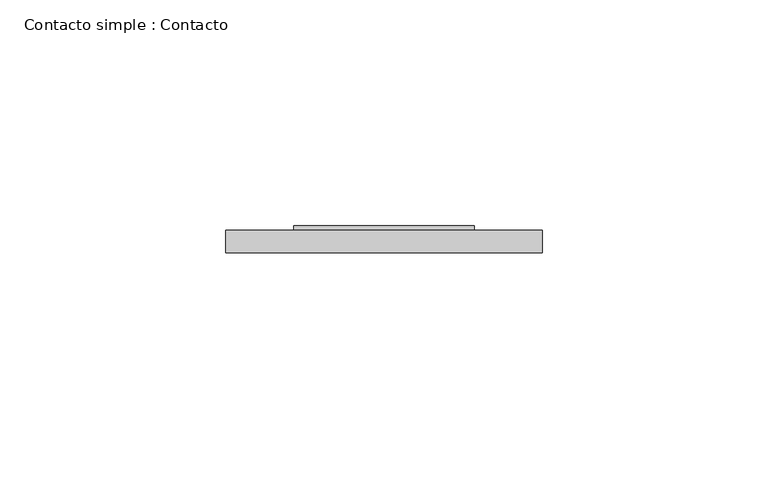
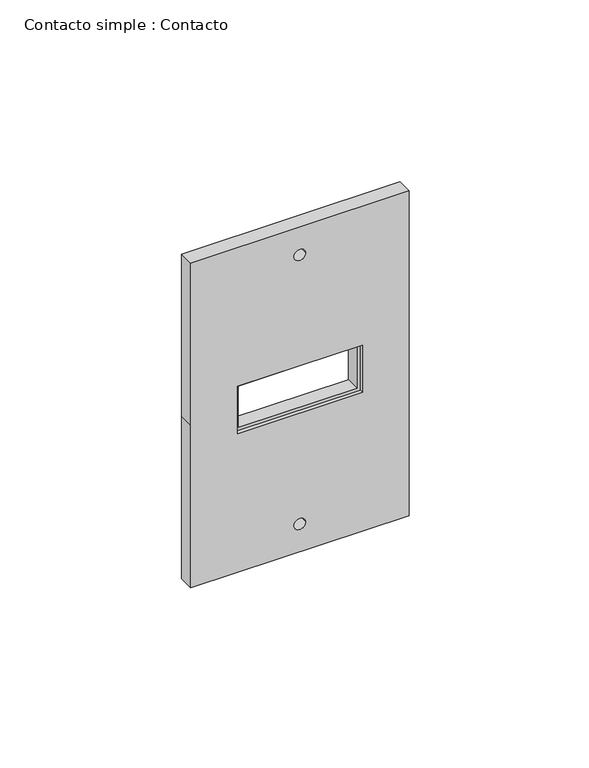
"""IFC4 building model written with IfcOpenShell, lengths in millimetres: proxy geometry, Contacto simple : Contacto."""

from ifc_helpers import new_model, si_unit, point, frame, frame_2d, origin, place, context, project, spatial, polyline, circle_curve, trimmed, segment, composite_curve, outline, extrude, source, transform, mapped, element, save


def contacto_simple_contacto_dd831d3e(model_context):
    return source(origin(), model_context, "Body", "SweptSolid", [
        extrude(outline(polyline([(342.0, 145.0), (358.0, 145.0), (358.0, 105.0), (342.0, 105.0), (342.0, 145.0)]), holes=[polyline([(357.0, 106.0), (357.0, 144.0), (343.0, 144.0), (343.0, 106.0), (357.0, 106.0)])]), frame((0.0, 76.2025607, 0.0), z_axis=(0.0, 1.0, 0.0), x_axis=(0.0, 0.0, 1.0)), (0.0, 0.0, 1.0), 4.7658788),
        extrude(outline(polyline([(405.0, 160.0), (405.0, 90.0), (350.0, 90.0), (295.0, 90.0), (295.0, 160.0), (405.0, 160.0)]), holes=[composite_curve([segment(trimmed(circle_curve(frame_2d((395.5814465, 125.0)), 1.8475425), [point((395.5814465, 123.1524575))], [point((395.5814465, 126.8475425))], True, "CARTESIAN"), True, "CONTINUOUS"), segment(trimmed(circle_curve(frame_2d((395.5814465, 125.0)), 1.8475425), [point((395.5814465, 126.8475425))], [point((395.5814465, 123.1524575))], True, "CARTESIAN"), True, "CONTINUOUS")], self_intersect=False), composite_curve([segment(trimmed(circle_curve(frame_2d((304.4185535, 125.0)), 1.8475425), [point((304.4185535, 123.1524575))], [point((304.4185535, 126.8475425))], True, "CARTESIAN"), True, "CONTINUOUS"), segment(trimmed(circle_curve(frame_2d((304.4185535, 125.0)), 1.8475425), [point((304.4185535, 126.8475425))], [point((304.4185535, 123.1524575))], True, "CARTESIAN"), True, "CONTINUOUS")], self_intersect=False), polyline([(358.0, 105.0), (358.0, 145.0), (342.0, 145.0), (342.0, 105.0), (358.0, 105.0)])]), frame((0.0, 75.0, 0.0), z_axis=(0.0, 1.0, 0.0), x_axis=(0.0, 0.0, 1.0)), (0.0, 0.0, 1.0), 5.0),
    ])


if __name__ == "__main__":
    model = new_model("IFC4")
    model_context = context("Model", 3, world=origin())
    ifc_project = project(units=[si_unit("LENGTHUNIT", "METRE", prefix="MILLI")], contexts=[model_context])
    site = spatial("IfcSite", under=ifc_project)
    building = spatial("IfcBuilding", under=site)
    placement = place(None, origin())
    contacto_simple_contacto_shape = contacto_simple_contacto_dd831d3e(model_context)
    element("IfcBuildingElementProxy", 1, Name="Contacto simple : Contacto", ObjectType="Contacto simple : Contacto", at=placement, inside=building, context=model_context, shape_type="MappedRepresentation", body=[
        mapped(contacto_simple_contacto_shape, transform((0.0, 0.0, 0.0), x_axis=(1.0, 0.0, 0.0), y_axis=(0.0, 1.0, 0.0), z_axis=(0.0, 0.0, 1.0))),
    ])
    save(model, "model.ifc")
